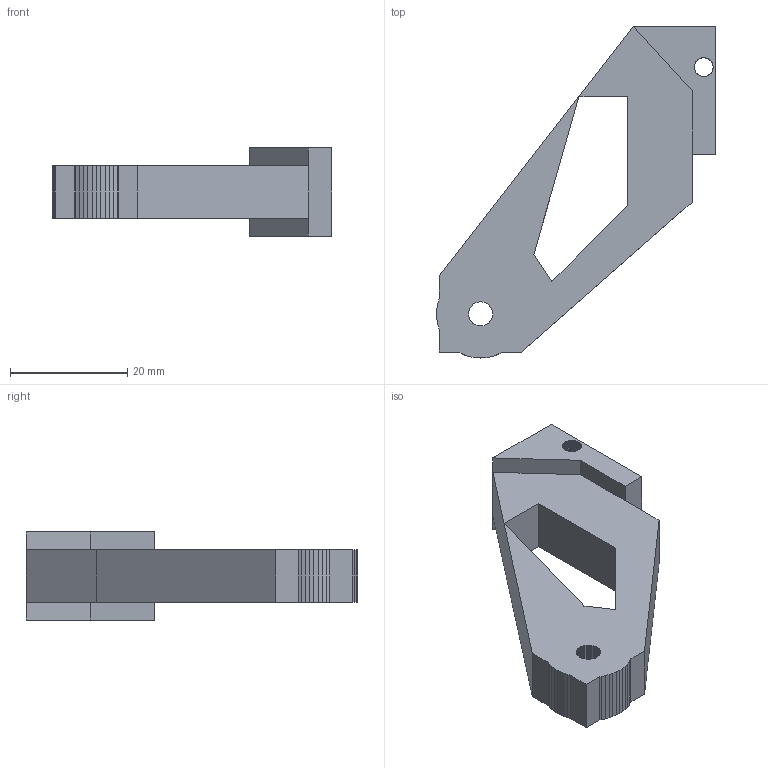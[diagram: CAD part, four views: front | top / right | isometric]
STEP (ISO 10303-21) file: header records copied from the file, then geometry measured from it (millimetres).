
FILE_DESCRIPTION(('Open CASCADE Model'),'2;1');
FILE_NAME('Open CASCADE Shape Model','2026-10-16T00:29:52',('Author'),( 'Open CASCADE'),'Open CASCADE STEP processor 7.9','Open CASCADE 7.9' ,'Unknown');
FILE_SCHEMA(('AUTOMOTIVE_DESIGN { 1 0 10303 214 1 1 1 1 }'));
Length unit declared in the file: millimetre
Products named in the file (1): Open CASCADE STEP translator 7.9 14
Bounding box: 47.5 x 56.5 x 15 mm (x, y, z)
Volume: 10531.8 mm3; surface area: 5038.1 mm2
Topology: 1 solids, 1 shells, 171 faces, 503 edges, 334 vertices
Faces by surface type: plane 171
Entity records: 12126 total; most frequent: CARTESIAN_POINT 2015, DIRECTION 1853, LINE 1509, VECTOR 1509, ORIENTED_EDGE 1006, PCURVE 1006, DEFINITIONAL_REPRESENTATION 1006, EDGE_CURVE 503
